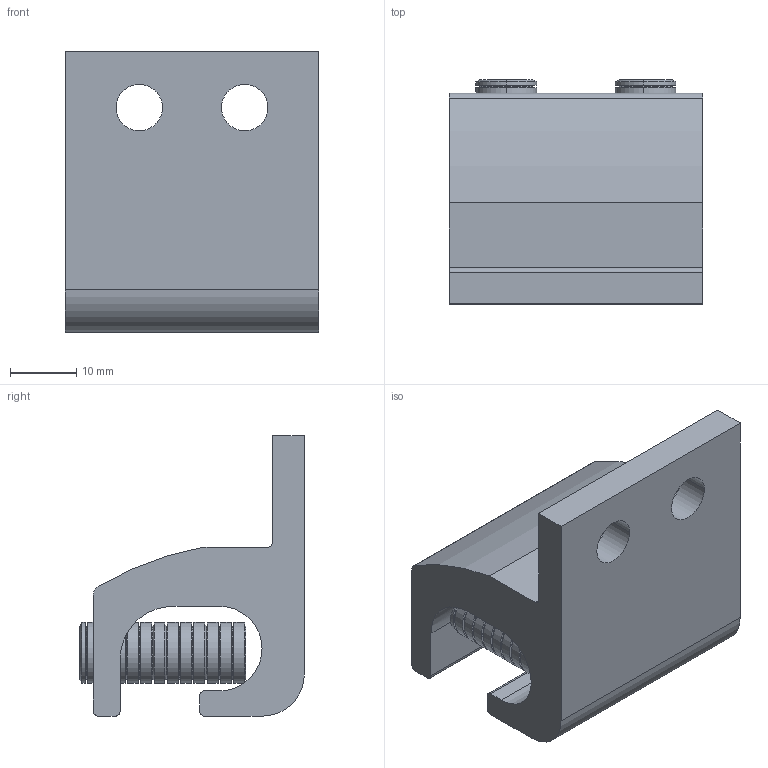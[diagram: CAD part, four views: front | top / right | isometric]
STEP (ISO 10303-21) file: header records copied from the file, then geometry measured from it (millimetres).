
FILE_DESCRIPTION (( 'STEP AP203' ), '1' );
FILE_NAME ('dglg.STEP', '2008-02-25T13:52:29', ( '' ), ( '' ), 'SwSTEP 2.0', 'SolidWorks 2007', '' );
FILE_SCHEMA (( 'CONFIG_CONTROL_DESIGN' ));
Length unit declared in the file: inch
Products named in the file (3): LayInLug; ScrSetM8x25mm_Catalog; dglg
Assembly tree (3 placements, depth 2):
  dglg
    ScrSetM8x25mm_Catalog  x2
    LayInLug
Bounding box: 38.1 x 33.78 x 42.16 mm (x, y, z)
Volume: 22931.8 mm3; surface area: 10504.4 mm2
Topology: 3 solids, 3 shells, 255 faces, 545 edges, 346 vertices
Faces by surface type: cone 104, plane 81, cylinder 70
Entity records: 4442 total; most frequent: DIRECTION 775, CARTESIAN_POINT 758, ORIENTED_EDGE 638, EDGE_CURVE 319, AXIS2_PLACEMENT_3D 313, VERTEX_POINT 204, EDGE_LOOP 175, CIRCLE 164
